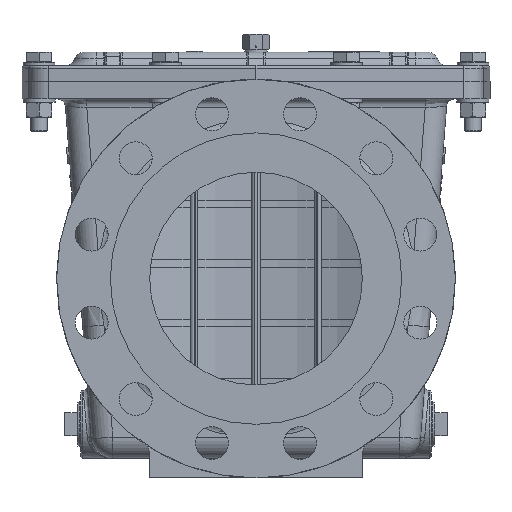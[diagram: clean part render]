
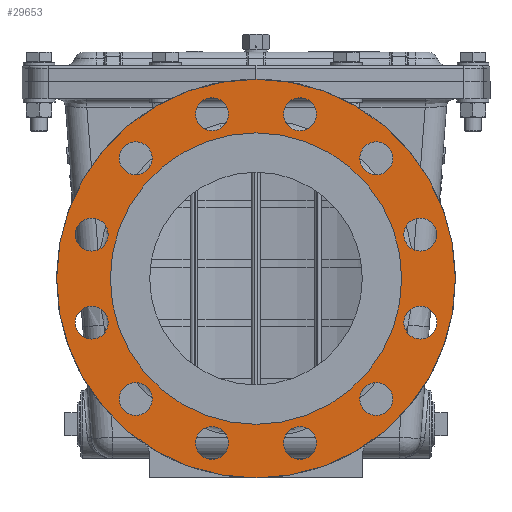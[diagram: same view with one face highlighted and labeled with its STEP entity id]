
A CAD part, front view. The second image highlights one B-rep face of the part: STEP entity #29653.
In plain terms, the highlighted planar face has unit normal (0, -1, 0) as drawn and (1, 0, 0) by its records, which use the part's own axes.
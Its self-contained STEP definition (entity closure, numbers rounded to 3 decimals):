
#6635=PLANE('',#31821);
#8175=FACE_BOUND('',#10999,.T.);
#8176=FACE_BOUND('',#11000,.T.);
#8177=FACE_BOUND('',#11001,.T.);
#8178=FACE_BOUND('',#11002,.T.);
#8179=FACE_BOUND('',#11003,.T.);
#8180=FACE_BOUND('',#11004,.T.);
#8181=FACE_BOUND('',#11005,.T.);
#8182=FACE_BOUND('',#11006,.T.);
#8183=FACE_BOUND('',#11007,.T.);
#8184=FACE_BOUND('',#11008,.T.);
#8185=FACE_BOUND('',#11009,.T.);
#8186=FACE_BOUND('',#11010,.T.);
#8187=FACE_BOUND('',#11011,.T.);
#9166=FACE_OUTER_BOUND('',#10998,.T.);
#10998=EDGE_LOOP('',(#24220));
#10999=EDGE_LOOP('',(#24221));
#11000=EDGE_LOOP('',(#24222));
#11001=EDGE_LOOP('',(#24223));
#11002=EDGE_LOOP('',(#24224));
#11003=EDGE_LOOP('',(#24225));
#11004=EDGE_LOOP('',(#24226));
#11005=EDGE_LOOP('',(#24227));
#11006=EDGE_LOOP('',(#24228));
#11007=EDGE_LOOP('',(#24229));
#11008=EDGE_LOOP('',(#24230));
#11009=EDGE_LOOP('',(#24231));
#11010=EDGE_LOOP('',(#24232));
#11011=EDGE_LOOP('',(#24233));
#12130=CIRCLE('',#31312,187.5);
#12366=CIRCLE('',#31795,15.5);
#12367=CIRCLE('',#31797,15.5);
#12368=CIRCLE('',#31799,15.5);
#12369=CIRCLE('',#31801,15.5);
#12370=CIRCLE('',#31803,15.5);
#12371=CIRCLE('',#31805,15.5);
#12372=CIRCLE('',#31807,15.5);
#12373=CIRCLE('',#31809,15.5);
#12374=CIRCLE('',#31811,15.5);
#12375=CIRCLE('',#31813,15.5);
#12376=CIRCLE('',#31815,15.5);
#12377=CIRCLE('',#31817,15.5);
#12378=CIRCLE('',#31819,137.);
#13920=VERTEX_POINT('',#46702);
#14289=VERTEX_POINT('',#51327);
#14290=VERTEX_POINT('',#51330);
#14291=VERTEX_POINT('',#51333);
#14292=VERTEX_POINT('',#51336);
#14293=VERTEX_POINT('',#51339);
#14294=VERTEX_POINT('',#51342);
#14295=VERTEX_POINT('',#51345);
#14296=VERTEX_POINT('',#51348);
#14297=VERTEX_POINT('',#51351);
#14298=VERTEX_POINT('',#51354);
#14299=VERTEX_POINT('',#51357);
#14300=VERTEX_POINT('',#51360);
#14301=VERTEX_POINT('',#51363);
#17217=EDGE_CURVE('',#13920,#13920,#12130,.T.);
#17821=EDGE_CURVE('',#14289,#14289,#12366,.T.);
#17822=EDGE_CURVE('',#14290,#14290,#12367,.T.);
#17823=EDGE_CURVE('',#14291,#14291,#12368,.T.);
#17824=EDGE_CURVE('',#14292,#14292,#12369,.T.);
#17825=EDGE_CURVE('',#14293,#14293,#12370,.T.);
#17826=EDGE_CURVE('',#14294,#14294,#12371,.T.);
#17827=EDGE_CURVE('',#14295,#14295,#12372,.T.);
#17828=EDGE_CURVE('',#14296,#14296,#12373,.T.);
#17829=EDGE_CURVE('',#14297,#14297,#12374,.T.);
#17830=EDGE_CURVE('',#14298,#14298,#12375,.T.);
#17831=EDGE_CURVE('',#14299,#14299,#12376,.T.);
#17832=EDGE_CURVE('',#14300,#14300,#12377,.T.);
#17833=EDGE_CURVE('',#14301,#14301,#12378,.T.);
#24220=ORIENTED_EDGE('',*,*,#17217,.T.);
#24221=ORIENTED_EDGE('',*,*,#17821,.T.);
#24222=ORIENTED_EDGE('',*,*,#17822,.T.);
#24223=ORIENTED_EDGE('',*,*,#17823,.T.);
#24224=ORIENTED_EDGE('',*,*,#17824,.T.);
#24225=ORIENTED_EDGE('',*,*,#17825,.T.);
#24226=ORIENTED_EDGE('',*,*,#17826,.T.);
#24227=ORIENTED_EDGE('',*,*,#17827,.T.);
#24228=ORIENTED_EDGE('',*,*,#17828,.T.);
#24229=ORIENTED_EDGE('',*,*,#17829,.T.);
#24230=ORIENTED_EDGE('',*,*,#17830,.T.);
#24231=ORIENTED_EDGE('',*,*,#17831,.T.);
#24232=ORIENTED_EDGE('',*,*,#17832,.T.);
#24233=ORIENTED_EDGE('',*,*,#17833,.F.);
#29653=ADVANCED_FACE('',(#9166,#8175,#8176,#8177,#8178,#8179,#8180,#8181,
#8182,#8183,#8184,#8185,#8186,#8187),#6635,.F.);
#31312=AXIS2_PLACEMENT_3D('',#46703,#35218,#35219);
#31795=AXIS2_PLACEMENT_3D('',#51328,#36392,#36393);
#31797=AXIS2_PLACEMENT_3D('',#51331,#36396,#36397);
#31799=AXIS2_PLACEMENT_3D('',#51334,#36400,#36401);
#31801=AXIS2_PLACEMENT_3D('',#51337,#36404,#36405);
#31803=AXIS2_PLACEMENT_3D('',#51340,#36408,#36409);
#31805=AXIS2_PLACEMENT_3D('',#51343,#36412,#36413);
#31807=AXIS2_PLACEMENT_3D('',#51346,#36416,#36417);
#31809=AXIS2_PLACEMENT_3D('',#51349,#36420,#36421);
#31811=AXIS2_PLACEMENT_3D('',#51352,#36424,#36425);
#31813=AXIS2_PLACEMENT_3D('',#51355,#36428,#36429);
#31815=AXIS2_PLACEMENT_3D('',#51358,#36432,#36433);
#31817=AXIS2_PLACEMENT_3D('',#51361,#36436,#36437);
#31819=AXIS2_PLACEMENT_3D('',#51364,#36440,#36441);
#31821=AXIS2_PLACEMENT_3D('',#51367,#36444,#36445);
#35218=DIRECTION('center_axis',(1.,0.,0.));
#35219=DIRECTION('ref_axis',(0.,1.,0.));
#36392=DIRECTION('center_axis',(-1.,0.,0.));
#36393=DIRECTION('ref_axis',(0.,0.5,0.866));
#36396=DIRECTION('center_axis',(-1.,0.,0.));
#36397=DIRECTION('ref_axis',(0.,0.866,0.5));
#36400=DIRECTION('center_axis',(-1.,0.,0.));
#36401=DIRECTION('ref_axis',(0.,1.,0.));
#36404=DIRECTION('center_axis',(-1.,0.,0.));
#36405=DIRECTION('ref_axis',(0.,0.866,-0.5));
#36408=DIRECTION('center_axis',(-1.,0.,0.));
#36409=DIRECTION('ref_axis',(0.,0.5,-0.866));
#36412=DIRECTION('center_axis',(-1.,0.,0.));
#36413=DIRECTION('ref_axis',(0.,0.,
-1.));
#36416=DIRECTION('center_axis',(-1.,0.,0.));
#36417=DIRECTION('ref_axis',(0.,-0.5,-0.866));
#36420=DIRECTION('center_axis',(-1.,0.,0.));
#36421=DIRECTION('ref_axis',(0.,-0.866,-0.5));
#36424=DIRECTION('center_axis',(-1.,0.,0.));
#36425=DIRECTION('ref_axis',(0.,-1.,0.));
#36428=DIRECTION('center_axis',(-1.,0.,0.));
#36429=DIRECTION('ref_axis',(0.,-0.866,0.5));
#36432=DIRECTION('center_axis',(-1.,0.,0.));
#36433=DIRECTION('ref_axis',(0.,-0.5,0.866));
#36436=DIRECTION('center_axis',(-1.,0.,0.));
#36437=DIRECTION('ref_axis',(0.,0.,1.));
#36440=DIRECTION('center_axis',(1.,0.,0.));
#36441=DIRECTION('ref_axis',(0.,1.,0.));
#36444=DIRECTION('center_axis',(-1.,0.,0.));
#36445=DIRECTION('ref_axis',(0.,0.,1.));
#46702=CARTESIAN_POINT('',(247.,187.5,0.));
#46703=CARTESIAN_POINT('Origin',(247.,0.,0.));
#51327=CARTESIAN_POINT('',(247.,-49.161,-167.972));
#51328=CARTESIAN_POINT('Origin',(247.,-41.411,-154.548));
#51330=CARTESIAN_POINT('',(247.,-126.56,-120.887));
#51331=CARTESIAN_POINT('Origin',(247.,-113.137,-113.137));
#51333=CARTESIAN_POINT('',(247.,-170.048,-41.411));
#51334=CARTESIAN_POINT('Origin',(247.,-154.548,-41.411));
#51336=CARTESIAN_POINT('',(247.,-167.972,49.161));
#51337=CARTESIAN_POINT('Origin',(247.,-154.548,41.411));
#51339=CARTESIAN_POINT('',(247.,-120.887,126.56));
#51340=CARTESIAN_POINT('Origin',(247.,-113.137,113.137));
#51342=CARTESIAN_POINT('',(247.,-41.411,170.048));
#51343=CARTESIAN_POINT('Origin',(247.,-41.411,154.548));
#51345=CARTESIAN_POINT('',(247.,49.161,167.972));
#51346=CARTESIAN_POINT('Origin',(247.,41.411,154.548));
#51348=CARTESIAN_POINT('',(247.,126.56,120.887));
#51349=CARTESIAN_POINT('Origin',(247.,113.137,113.137));
#51351=CARTESIAN_POINT('',(247.,170.048,41.411));
#51352=CARTESIAN_POINT('Origin',(247.,154.548,41.411));
#51354=CARTESIAN_POINT('',(247.,167.972,-49.161));
#51355=CARTESIAN_POINT('Origin',(247.,154.548,-41.411));
#51357=CARTESIAN_POINT('',(247.,120.887,-126.56));
#51358=CARTESIAN_POINT('Origin',(247.,113.137,-113.137));
#51360=CARTESIAN_POINT('',(247.,41.411,-170.048));
#51361=CARTESIAN_POINT('Origin',(247.,41.411,-154.548));
#51363=CARTESIAN_POINT('',(247.,137.,0.));
#51364=CARTESIAN_POINT('Origin',(247.,0.,0.));
#51367=CARTESIAN_POINT('Origin',(247.,162.25,0.));
